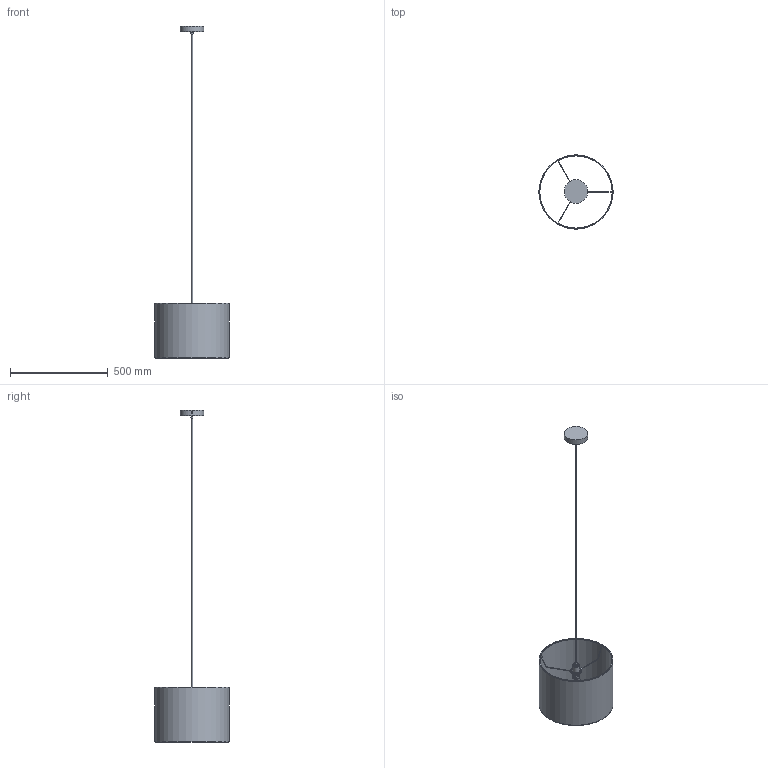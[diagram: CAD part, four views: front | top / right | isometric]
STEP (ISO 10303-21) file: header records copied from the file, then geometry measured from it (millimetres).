
FILE_DESCRIPTION(/* description */ (''),/* implementation_level */ '2;1');
FILE_NAME(/* name */ 'C:/Users/Jakub Wieczorkowski/Desktop/STEP/TERCINO_6121 v3 v2 v1.step',/* time_stamp */ '2022-02-22T08:25:29+01:00',/* author */ (''),/* organization */ (''),/* preprocessor_version */ 'ST-DEVELOPER v18.1',/* originating_system */ 'Autodesk Translation Framework v10.13.0.1454',/* authorisation */ '');
FILE_SCHEMA (('AUTOMOTIVE_DESIGN { 1 0 10303 214 3 1 1 }'));
Length unit declared in the file: millimetre
Products named in the file (6): TERCINO_6121 v3 v2; Cięgno v1; TERCINO_OPRAWA_ZWIS v2; TERCINO_KLOSZ_6121 v4; SRUBA TERCINO v1; SRUBA TERCINO v1(Mirror)
Assembly tree (5 placements, depth 2):
  TERCINO_6121 v3 v2
    Cięgno v1
    TERCINO_OPRAWA_ZWIS v2
    TERCINO_KLOSZ_6121 v4
    SRUBA TERCINO v1
    SRUBA TERCINO v1(Mirror)
Bounding box: 380 x 380 x 1700 mm (x, y, z)
Volume: 1132855.7 mm3; surface area: 785900.4 mm2
Topology: 23 solids, 23 shells, 515 faces, 1219 edges, 755 vertices
Faces by surface type: bspline 205, plane 185, cylinder 100, torus 11, sphere 10, cone 4
Full cylindrical faces by diameter (mm): 3 x6, 4 x6, 5 x1, 6 x1, 8 x2, 34.939 x1, 36 x1, 42 x1, 58 x1, 120 x1, 370 x2, 376 x1, 380 x1
Entity records: 29010 total; most frequent: CARTESIAN_POINT 18875, ORIENTED_EDGE 2438, DIRECTION 1342, EDGE_CURVE 1219, VERTEX_POINT 755, B_SPLINE_CURVE_WITH_KNOTS 695, EDGE_LOOP 534, FACE_OUTER_BOUND 515
